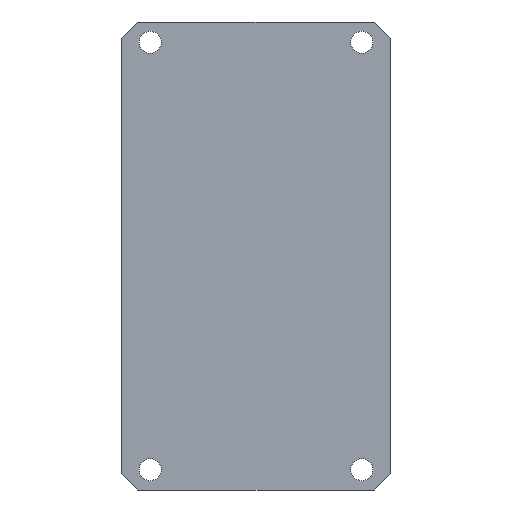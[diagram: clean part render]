
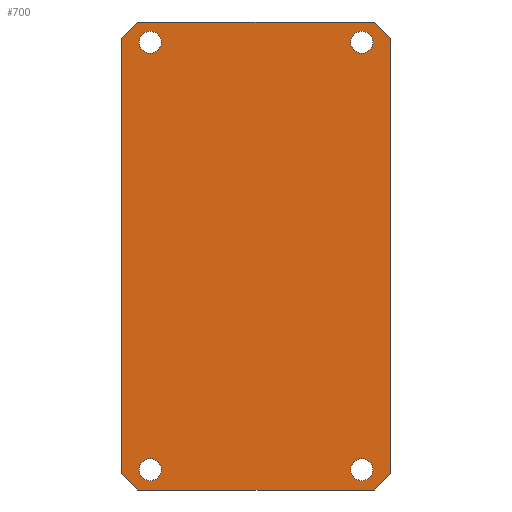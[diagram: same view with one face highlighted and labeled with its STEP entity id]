
A CAD part, front view. The second image highlights one B-rep face of the part: STEP entity #700.
In plain terms, the highlighted planar face has unit normal (0, -1, 0).
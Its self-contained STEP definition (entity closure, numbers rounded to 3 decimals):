
#40=LINE('',#1140,#92);
#47=LINE('',#1155,#99);
#50=LINE('',#1160,#102);
#51=LINE('',#1163,#103);
#58=LINE('',#1175,#110);
#59=LINE('',#1177,#111);
#60=LINE('',#1180,#112);
#61=LINE('',#1181,#113);
#92=VECTOR('',#940,10.);
#99=VECTOR('',#951,10.);
#102=VECTOR('',#956,10.);
#103=VECTOR('',#959,10.);
#110=VECTOR('',#970,10.);
#111=VECTOR('',#973,10.);
#112=VECTOR('',#976,10.);
#113=VECTOR('',#977,10.);
#141=PLANE('',#785);
#165=FACE_BOUND('',#275,.T.);
#166=FACE_BOUND('',#276,.T.);
#167=FACE_BOUND('',#277,.T.);
#168=FACE_BOUND('',#278,.T.);
#212=FACE_OUTER_BOUND('',#274,.T.);
#274=EDGE_LOOP('',(#591,#592,#593,#594,#595,#596,#597,#598));
#275=EDGE_LOOP('',(#599));
#276=EDGE_LOOP('',(#600));
#277=EDGE_LOOP('',(#601));
#278=EDGE_LOOP('',(#602));
#319=CIRCLE('',#767,1.35);
#321=CIRCLE('',#770,1.35);
#323=CIRCLE('',#773,1.35);
#325=CIRCLE('',#776,1.35);
#367=VERTEX_POINT('',#1115);
#369=VERTEX_POINT('',#1120);
#371=VERTEX_POINT('',#1125);
#373=VERTEX_POINT('',#1130);
#375=VERTEX_POINT('',#1134);
#377=VERTEX_POINT('',#1138);
#382=VERTEX_POINT('',#1152);
#383=VERTEX_POINT('',#1154);
#384=VERTEX_POINT('',#1158);
#385=VERTEX_POINT('',#1162);
#388=VERTEX_POINT('',#1173);
#389=VERTEX_POINT('',#1179);
#438=EDGE_CURVE('',#367,#367,#319,.T.);
#440=EDGE_CURVE('',#369,#369,#321,.T.);
#442=EDGE_CURVE('',#371,#371,#323,.T.);
#444=EDGE_CURVE('',#373,#373,#325,.T.);
#448=EDGE_CURVE('',#377,#375,#40,.T.);
#455=EDGE_CURVE('',#382,#383,#47,.T.);
#458=EDGE_CURVE('',#383,#384,#50,.T.);
#459=EDGE_CURVE('',#384,#385,#51,.T.);
#466=EDGE_CURVE('',#385,#388,#58,.T.);
#467=EDGE_CURVE('',#388,#377,#59,.T.);
#468=EDGE_CURVE('',#375,#389,#60,.T.);
#469=EDGE_CURVE('',#389,#382,#61,.T.);
#591=ORIENTED_EDGE('',*,*,#468,.F.);
#592=ORIENTED_EDGE('',*,*,#448,.F.);
#593=ORIENTED_EDGE('',*,*,#467,.F.);
#594=ORIENTED_EDGE('',*,*,#466,.F.);
#595=ORIENTED_EDGE('',*,*,#459,.F.);
#596=ORIENTED_EDGE('',*,*,#458,.F.);
#597=ORIENTED_EDGE('',*,*,#455,.F.);
#598=ORIENTED_EDGE('',*,*,#469,.F.);
#599=ORIENTED_EDGE('',*,*,#444,.T.);
#600=ORIENTED_EDGE('',*,*,#442,.T.);
#601=ORIENTED_EDGE('',*,*,#438,.T.);
#602=ORIENTED_EDGE('',*,*,#440,.T.);
#700=ADVANCED_FACE('',(#212,#165,#166,#167,#168),#141,.F.);
#767=AXIS2_PLACEMENT_3D('',#1116,#915,#916);
#770=AXIS2_PLACEMENT_3D('',#1121,#921,#922);
#773=AXIS2_PLACEMENT_3D('',#1126,#927,#928);
#776=AXIS2_PLACEMENT_3D('',#1131,#933,#934);
#785=AXIS2_PLACEMENT_3D('',#1178,#974,#975);
#915=DIRECTION('center_axis',(0.,1.,0.));
#916=DIRECTION('ref_axis',(1.,0.,0.));
#921=DIRECTION('center_axis',(0.,1.,0.));
#922=DIRECTION('ref_axis',(1.,0.,0.));
#927=DIRECTION('center_axis',(0.,1.,0.));
#928=DIRECTION('ref_axis',(1.,0.,0.));
#933=DIRECTION('center_axis',(0.,1.,0.));
#934=DIRECTION('ref_axis',(1.,0.,0.));
#940=DIRECTION('',(-1.,0.,0.));
#951=DIRECTION('',(0.707,0.,0.707));
#956=DIRECTION('',(1.,0.,0.));
#959=DIRECTION('',(0.707,0.,-0.707));
#970=DIRECTION('',(0.,0.,-1.));
#973=DIRECTION('',(-0.707,0.,-0.707));
#974=DIRECTION('center_axis',(0.,1.,0.));
#975=DIRECTION('ref_axis',(0.,0.,1.));
#976=DIRECTION('',(-0.707,0.,0.707));
#977=DIRECTION('',(0.,0.,1.));
#1115=CARTESIAN_POINT('',(-4.85,0.,-55.));
#1116=CARTESIAN_POINT('Origin',(-3.5,0.,-55.));
#1120=CARTESIAN_POINT('',(-30.85,0.,-55.));
#1121=CARTESIAN_POINT('Origin',(-29.5,0.,-55.));
#1125=CARTESIAN_POINT('',(-30.85,0.,-2.5));
#1126=CARTESIAN_POINT('Origin',(-29.5,0.,-2.5));
#1130=CARTESIAN_POINT('',(-4.85,0.,-2.5));
#1131=CARTESIAN_POINT('Origin',(-3.5,0.,-2.5));
#1134=CARTESIAN_POINT('',(-31.,0.,-57.5));
#1138=CARTESIAN_POINT('',(-2.,0.,-57.5));
#1140=CARTESIAN_POINT('',(0.,0.,-57.5));
#1152=CARTESIAN_POINT('',(-33.,0.,-2.));
#1154=CARTESIAN_POINT('',(-31.,0.,0.));
#1155=CARTESIAN_POINT('',(-35.688,0.,-4.687));
#1158=CARTESIAN_POINT('',(-2.,0.,0.));
#1160=CARTESIAN_POINT('',(-33.,0.,0.));
#1162=CARTESIAN_POINT('',(0.,0.,-2.));
#1163=CARTESIAN_POINT('',(2.687,0.,-4.687));
#1173=CARTESIAN_POINT('',(0.,0.,-55.5));
#1175=CARTESIAN_POINT('',(0.,0.,-5.));
#1177=CARTESIAN_POINT('',(1.438,0.,-54.063));
#1178=CARTESIAN_POINT('Origin',(-16.5,0.,-31.25));
#1179=CARTESIAN_POINT('',(-33.,0.,-55.5));
#1180=CARTESIAN_POINT('',(-34.438,0.,-54.063));
#1181=CARTESIAN_POINT('',(-33.,0.,-57.5));
